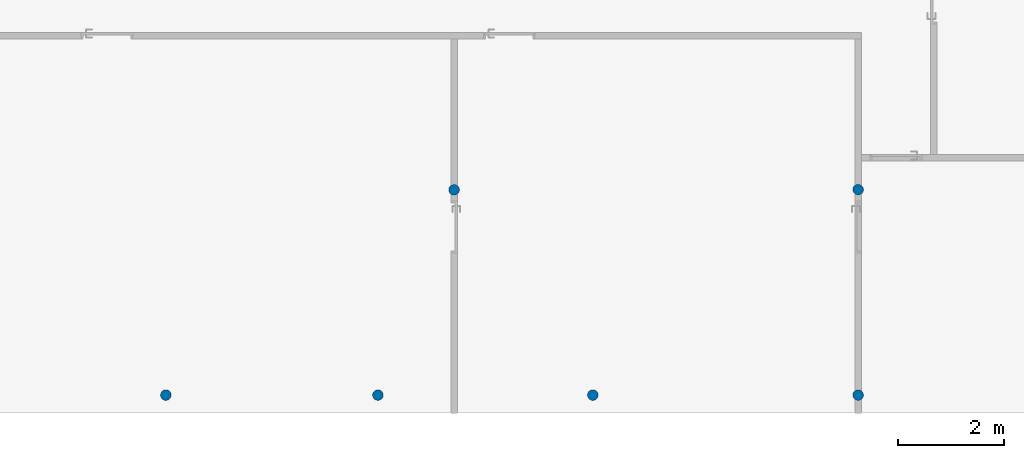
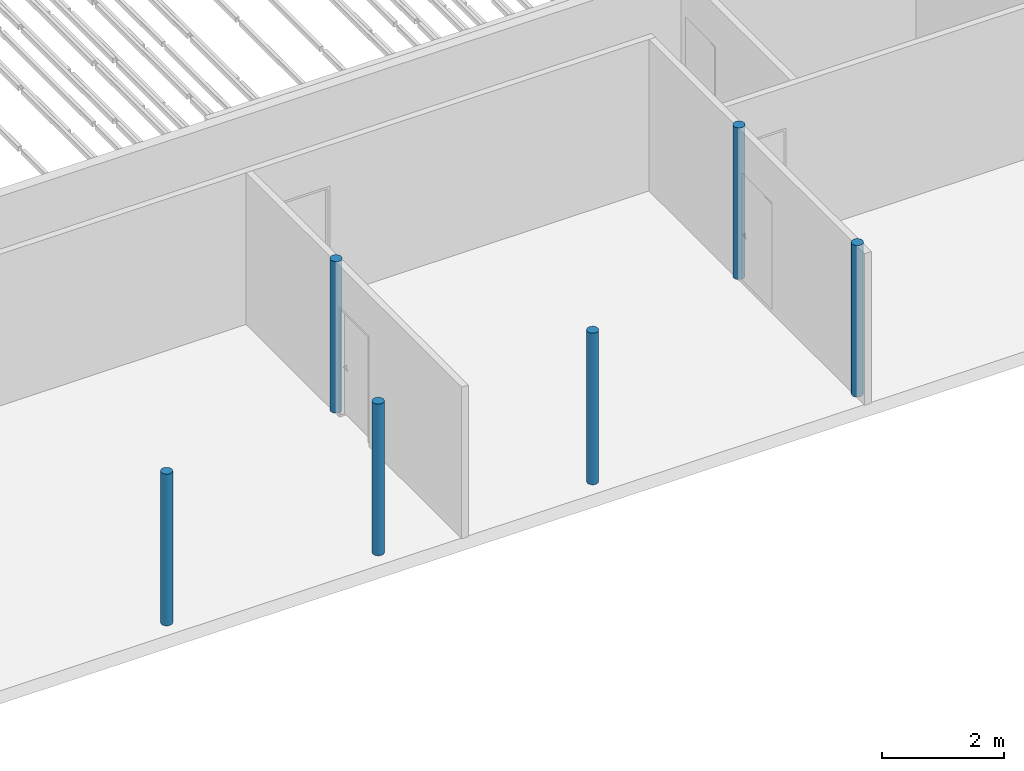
# One storey, part 6 of 290: 6 columns.
"""IFC2X3 building model written with IfcOpenShell, lengths in metres."""

from ifc_helpers import new_model, entity, si_unit, converted_unit, derived_unit, direction, frame, frame_2d, origin, place, context, subcontext, project, spatial, circle, extrude, source, transform, mapped, material, type_object, type_shapes, element, save


model = new_model("IFC2X3")

# Units and contexts
model_context = context("Model", 3, precision=1e-05, world=origin(), true_north=direction((6.12303176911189e-17, 1.0)))
body_context = subcontext(model_context, "Body", "Model", "MODEL_VIEW")
ifc_project = project(units=[si_unit("LENGTHUNIT", "METRE"), si_unit("AREAUNIT", "SQUARE_METRE"), si_unit("VOLUMEUNIT", "CUBIC_METRE"), converted_unit("PLANEANGLEUNIT", "DEGREE", entity("IfcRatioMeasure", 0.0174532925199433), si_unit("PLANEANGLEUNIT", "RADIAN"), dimensions=[0, 0, 0, 0, 0, 0, 0]), si_unit("MASSUNIT", "GRAM", prefix="KILO"), derived_unit("MASSDENSITYUNIT", [(si_unit("MASSUNIT", "GRAM", prefix="KILO"), 1), (si_unit("LENGTHUNIT", "METRE"), -3)]), derived_unit("MOMENTOFINERTIAUNIT", [(si_unit("LENGTHUNIT", "METRE"), 4)]), si_unit("TIMEUNIT", "SECOND"), si_unit("FREQUENCYUNIT", "HERTZ"), si_unit("THERMODYNAMICTEMPERATUREUNIT", "DEGREE_CELSIUS"), derived_unit("THERMALTRANSMITTANCEUNIT", [(si_unit("MASSUNIT", "GRAM", prefix="KILO"), 1), (si_unit("THERMODYNAMICTEMPERATUREUNIT", "KELVIN"), -1), (si_unit("TIMEUNIT", "SECOND"), -3)]), derived_unit("VOLUMETRICFLOWRATEUNIT", [(si_unit("LENGTHUNIT", "METRE"), 3), (si_unit("TIMEUNIT", "SECOND"), -1)]), si_unit("ELECTRICCURRENTUNIT", "AMPERE"), si_unit("ELECTRICVOLTAGEUNIT", "VOLT"), si_unit("POWERUNIT", "WATT"), si_unit("FORCEUNIT", "NEWTON", prefix="KILO"), si_unit("ILLUMINANCEUNIT", "LUX"), si_unit("LUMINOUSFLUXUNIT", "LUMEN"), si_unit("LUMINOUSINTENSITYUNIT", "CANDELA"), derived_unit("USERDEFINED", [(si_unit("MASSUNIT", "GRAM", prefix="KILO"), -1), (si_unit("LENGTHUNIT", "METRE"), -2), (si_unit("TIMEUNIT", "SECOND"), 3), (si_unit("LUMINOUSFLUXUNIT", "LUMEN"), 1)]), derived_unit("LINEARVELOCITYUNIT", [(si_unit("LENGTHUNIT", "METRE"), 1), (si_unit("TIMEUNIT", "SECOND"), -1)]), si_unit("PRESSUREUNIT", "PASCAL"), derived_unit("USERDEFINED", [(si_unit("LENGTHUNIT", "METRE"), -2), (si_unit("MASSUNIT", "GRAM", prefix="KILO"), 1), (si_unit("TIMEUNIT", "SECOND"), -2)]), derived_unit("LINEARFORCEUNIT", [(si_unit("MASSUNIT", "GRAM", prefix="KILO"), 1), (si_unit("LENGTHUNIT", "METRE"), 1), (si_unit("TIMEUNIT", "SECOND"), -2), (si_unit("LENGTHUNIT", "METRE"), -1)]), derived_unit("PLANARFORCEUNIT", [(si_unit("MASSUNIT", "GRAM", prefix="KILO"), 1), (si_unit("LENGTHUNIT", "METRE"), 1), (si_unit("TIMEUNIT", "SECOND"), -2), (si_unit("LENGTHUNIT", "METRE"), -2)])], contexts=[model_context])

# Site, building, storey
site_placement = place(None, origin())
site = spatial("IfcSite", under=ifc_project, at=site_placement, Name="Default", CompositionType="ELEMENT")
building_placement = place(site_placement, origin())
building = spatial("IfcBuilding", under=site, at=building_placement, CompositionType="ELEMENT")
storey_placement = place(building_placement, frame((0.0, 0.0, 4.0)))
storey = spatial("IfcBuildingStorey", under=building, at=storey_placement, Name="01_OG", CompositionType="ELEMENT", Elevation=4.0)

# Columns
ifc_material = material(Name="Ortbeton - bewehrt Verputzt")
column_type_1 = type_object("IfcColumnType", Name="STB Stütze - rund:STB ø200", PredefinedType="COLUMN", material=ifc_material)
shared_shape_1 = source(origin(), body_context, "Body", "SweptSolid", [
    extrude(circle(Radius=0.100000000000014, at=frame_2d((-3.79922795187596e-27, -1.94916083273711e-14), x_axis=(1.0, 0.0))), frame((-196.618437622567, 15.2872628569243, 4.41), z_axis=(0.0, 0.0, 1.0), x_axis=(-1.0, 0.0, 0.0)), (0.0, 0.0, 1.0), 3.02999999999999),
])
type_shapes(column_type_1, [shared_shape_1])
column_1_placement = place(storey_placement, frame((0.0, 0.0, -4.0)))
element("IfcColumn", 1, at=column_1_placement, inside=storey, type_object=column_type_1, material=ifc_material, Name="STB Stütze - rund:STB ø200", ObjectType="STB Stütze - rund:STB ø200", context=body_context, shape_type="MappedRepresentation", body=[
    mapped(shared_shape_1, transform((0.0, 0.0, 0.0), scale=1.0)),
])
column_type_2 = type_object("IfcColumnType", Name="STB Stütze - rund:STB ø200", PredefinedType="COLUMN", material=ifc_material)
shared_shape_2 = source(origin(), body_context, "Body", "SweptSolid", [
    extrude(circle(Radius=0.100000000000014, at=frame_2d((-3.79922795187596e-27, -1.94916083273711e-14), x_axis=(1.0, 0.0))), frame((-192.61860715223, 15.2872628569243, 4.41), z_axis=(0.0, 0.0, 1.0), x_axis=(-1.0, 0.0, 0.0)), (0.0, 0.0, 1.0), 3.02999999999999),
])
type_shapes(column_type_2, [shared_shape_2])
column_2_placement = place(storey_placement, frame((0.0, 0.0, -4.0)))
element("IfcColumn", 2, at=column_2_placement, inside=storey, type_object=column_type_2, material=ifc_material, Name="STB Stütze - rund:STB ø200", ObjectType="STB Stütze - rund:STB ø200", context=body_context, shape_type="MappedRepresentation", body=[
    mapped(shared_shape_2, transform((0.0, 0.0, 0.0), scale=1.0)),
])
column_type_3 = type_object("IfcColumnType", Name="STB Stütze - rund:STB ø200", PredefinedType="COLUMN", material=ifc_material)
shared_shape_3 = source(origin(), body_context, "Body", "SweptSolid", [
    extrude(circle(Radius=0.100000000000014, at=frame_2d((-3.79922795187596e-27, -1.94916083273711e-14), x_axis=(1.0, 0.0))), frame((-183.562611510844, 15.2872628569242, 4.41), z_axis=(0.0, 0.0, 1.0), x_axis=(-1.0, 0.0, 0.0)), (0.0, 0.0, 1.0), 3.02999999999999),
])
type_shapes(column_type_3, [shared_shape_3])
column_3_placement = place(storey_placement, frame((0.0, 0.0, -4.0)))
element("IfcColumn", 3, at=column_3_placement, inside=storey, type_object=column_type_3, material=ifc_material, Name="STB Stütze - rund:STB ø200", ObjectType="STB Stütze - rund:STB ø200", context=body_context, shape_type="MappedRepresentation", body=[
    mapped(shared_shape_3, transform((0.0, 0.0, 0.0), scale=1.0)),
])
column_type_4 = type_object("IfcColumnType", Name="STB Stütze - rund:STB ø200", PredefinedType="COLUMN", material=ifc_material)
shared_shape_4 = source(origin(), body_context, "Body", "SweptSolid", [
    extrude(circle(Radius=0.100000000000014, at=frame_2d((-3.79922795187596e-27, -1.94916083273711e-14), x_axis=(1.0, 0.0))), frame((-183.562611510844, 19.1625767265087, 4.41), z_axis=(0.0, 0.0, 1.0), x_axis=(-1.0, 0.0, 0.0)), (0.0, 0.0, 1.0), 3.02999999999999),
])
type_shapes(column_type_4, [shared_shape_4])
column_4_placement = place(storey_placement, frame((0.0, 0.0, -4.0)))
element("IfcColumn", 4, at=column_4_placement, inside=storey, type_object=column_type_4, material=ifc_material, Name="STB Stütze - rund:STB ø200", ObjectType="STB Stütze - rund:STB ø200", context=body_context, shape_type="MappedRepresentation", body=[
    mapped(shared_shape_4, transform((0.0, 0.0, 0.0), scale=1.0)),
])
column_type_5 = type_object("IfcColumnType", Name="STB Stütze - rund:STB ø200", PredefinedType="COLUMN", material=ifc_material)
shared_shape_5 = source(origin(), body_context, "Body", "SweptSolid", [
    extrude(circle(Radius=0.100000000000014, at=frame_2d((-3.79922795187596e-27, -1.94916083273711e-14), x_axis=(1.0, 0.0))), frame((-188.566107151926, 15.2872628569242, 4.41), z_axis=(0.0, 0.0, 1.0), x_axis=(-1.0, 0.0, 0.0)), (0.0, 0.0, 1.0), 3.02999999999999),
])
type_shapes(column_type_5, [shared_shape_5])
column_5_placement = place(storey_placement, frame((0.0, 0.0, -4.0)))
element("IfcColumn", 5, at=column_5_placement, inside=storey, type_object=column_type_5, material=ifc_material, Name="STB Stütze - rund:STB ø200", ObjectType="STB Stütze - rund:STB ø200", context=body_context, shape_type="MappedRepresentation", body=[
    mapped(shared_shape_5, transform((0.0, 0.0, 0.0), scale=1.0)),
])
column_type_6 = type_object("IfcColumnType", Name="STB Stütze - rund:STB ø200", PredefinedType="COLUMN", material=ifc_material)
shared_shape_6 = source(origin(), body_context, "Body", "SweptSolid", [
    extrude(circle(Radius=0.100000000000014, at=frame_2d((-3.79922795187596e-27, -1.94916083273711e-14), x_axis=(1.0, 0.0))), frame((-191.182611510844, 19.1575767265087, 4.41), z_axis=(0.0, 0.0, 1.0), x_axis=(-1.0, 0.0, 0.0)), (0.0, 0.0, 1.0), 3.02999999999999),
])
type_shapes(column_type_6, [shared_shape_6])
column_6_placement = place(storey_placement, frame((0.0, 0.0, -4.0)))
element("IfcColumn", 6, at=column_6_placement, inside=storey, type_object=column_type_6, material=ifc_material, Name="STB Stütze - rund:STB ø200", ObjectType="STB Stütze - rund:STB ø200", context=body_context, shape_type="MappedRepresentation", body=[
    mapped(shared_shape_6, transform((0.0, 0.0, 0.0), scale=1.0)),
])

save(model, "model.ifc")
